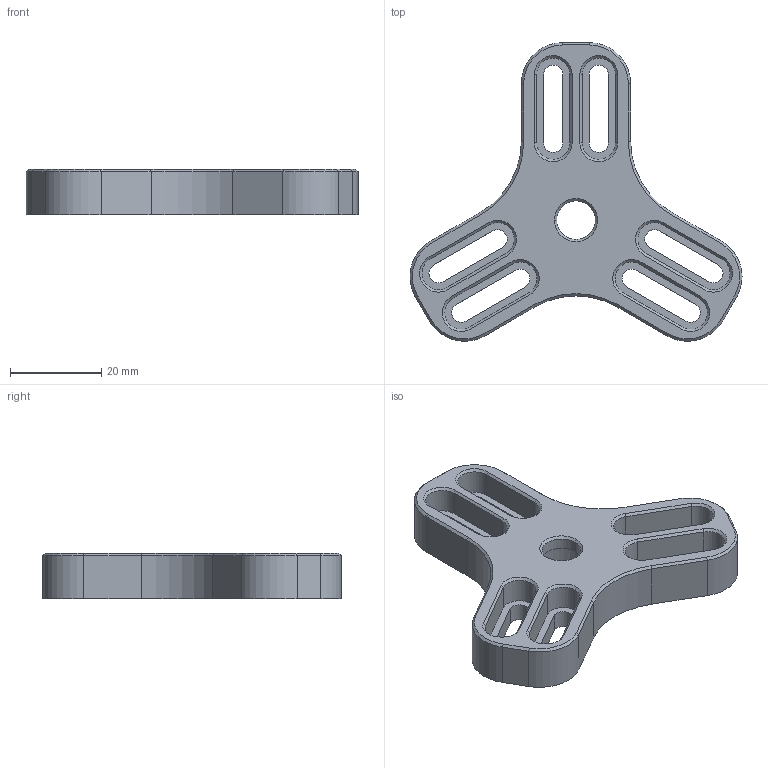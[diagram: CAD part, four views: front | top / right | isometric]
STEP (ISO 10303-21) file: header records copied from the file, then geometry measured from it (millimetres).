
FILE_DESCRIPTION (( 'STEP AP214' ), '1' );
FILE_NAME ('SMP_3S.STEP', '2019-12-04T09:09:22', ( '微软用户' ), ( '微软中国' ), 'SwSTEP 2.0', 'SolidWorks 2016', '' );
FILE_SCHEMA (( 'AUTOMOTIVE_DESIGN' ));
Length unit declared in the file: millimetre
Products named in the file (1): SMP_3S
Bounding box: 72.96 x 65.6 x 10 mm (x, y, z)
Volume: 16451 mm3; surface area: 9494.2 mm2
Topology: 1 solids, 1 shells, 123 faces, 298 edges, 184 vertices
Faces by surface type: plane 63, cylinder 37, cone 23
Entity records: 4972 total; most frequent: DIRECTION 643, CARTESIAN_POINT 606, ORIENTED_EDGE 596, EDGE_CURVE 298, AXIS2_PLACEMENT_3D 221, LINE 201, VECTOR 201, VERTEX_POINT 184
